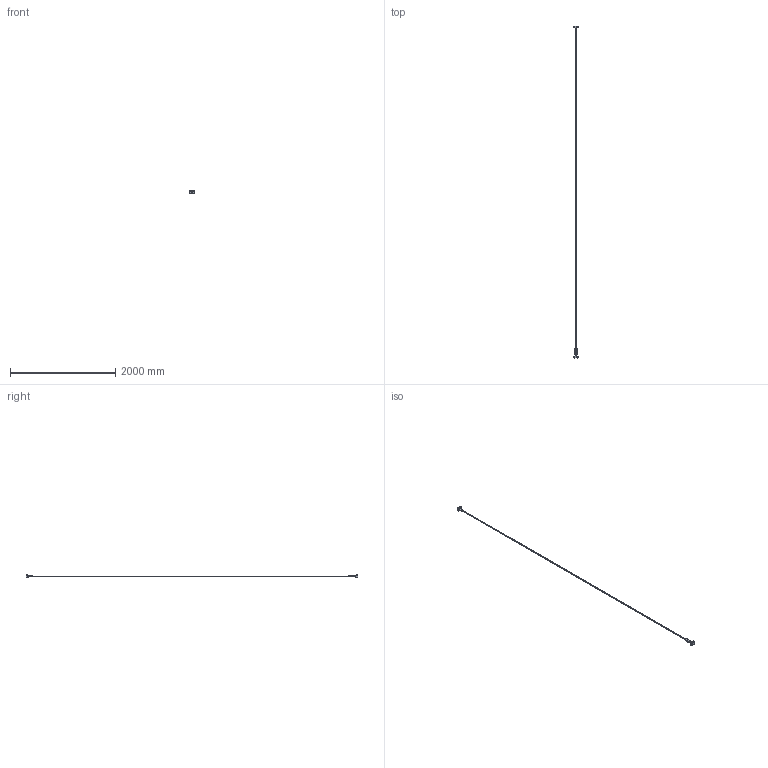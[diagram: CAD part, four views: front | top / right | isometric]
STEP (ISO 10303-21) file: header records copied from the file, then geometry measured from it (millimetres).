
FILE_DESCRIPTION(/* description */ (''),/* implementation_level */ '2;1');
FILE_NAME(/* name */ 'X:\PUBBLICA\X ALBERTO ZANARDI\FILE 3D X SITO\EU\INFINITO\1860 - INFINITO 6.stp',/* time_stamp */ '2020-02-26T11:49:52+01:00',/* author */ ('AC'),/* organization */ (''),/* preprocessor_version */ 'ST-DEVELOPER v18',/* originating_system */ 'Autodesk Inventor 2020',/* authorisation */ '');
FILE_SCHEMA (('AUTOMOTIVE_DESIGN { 1 0 10303 214 3 1 1 }'));
Length unit declared in the file: millimetre
Products named in the file (1): Parte4
Bounding box: 90 x 6313 x 53 mm (x, y, z)
Volume: 273014 mm3; surface area: 370632.2 mm2
Topology: 3 solids, 4 shells, 493 faces, 1287 edges, 787 vertices
Faces by surface type: plane 337, cylinder 146, cone 10
Full cylindrical faces by diameter (mm): 6.647 x1, 8 x4, 8.25 x8, 12 x2, 15 x1
Entity records: 15519 total; most frequent: CARTESIAN_POINT 2621, DIRECTION 2586, ORIENTED_EDGE 2564, EDGE_CURVE 1282, LINE 946, VECTOR 946, AXIS2_PLACEMENT_3D 820, VERTEX_POINT 778
